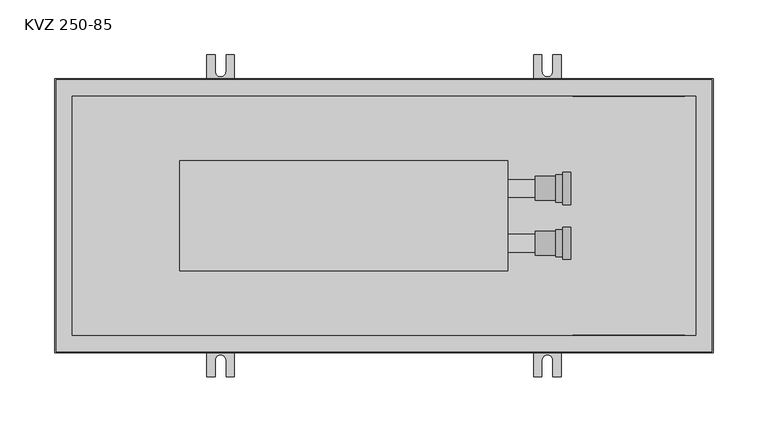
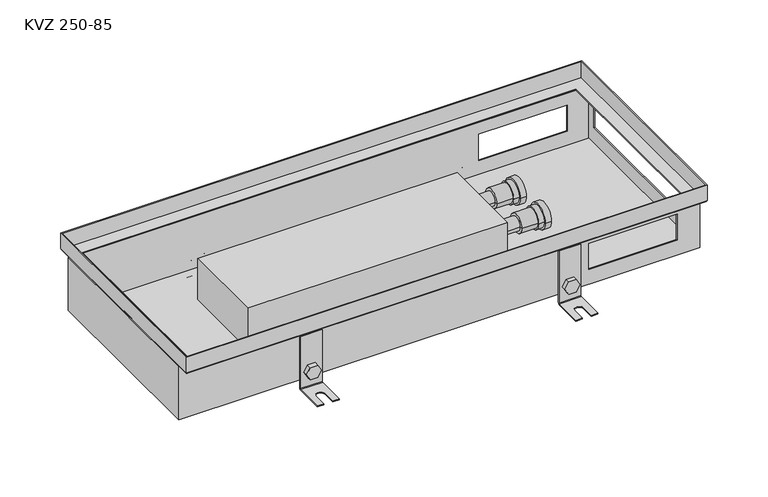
"""IFC4 building model written with IfcOpenShell, lengths in millimetres: proxy geometry, TECHNO_Конвектор встраиваемый_Usual_KVZ-250_85-105-120 : KVZ 250-85."""

from ifc_helpers import new_model, si_unit, point, frame, frame_2d, origin, place, context, project, spatial, polyline, circle_curve, ellipse_curve, trimmed, segment, composite_curve, outline, extrude, faceted_brep, source, transform, mapped, element, save
from ifc_brep_helpers import plane_surface, cylinder_surface, revolved_surface, advanced_brep


def kvz_250_85_78aa8f4b(model_context):
    return source(origin(), model_context, "Body", "SolidModel", [
        extrude(outline(composite_curve([segment(trimmed(circle_curve(frame_2d((-75.5, 449.0)), 7.5), [point((-75.5, 441.5))], [point((-75.5, 456.5))], False, "CARTESIAN"), True, "CONTINUOUS"), segment(trimmed(circle_curve(frame_2d((-75.5, 449.0)), 7.5), [point((-75.5, 456.5))], [point((-75.5, 441.5))], False, "CARTESIAN"), True, "CONTINUOUS")], self_intersect=False)), frame((0.0, 110.2, 0.0), z_axis=(0.0, 1.0, 0.0), x_axis=(0.0, 0.0, 1.0)), (0.0, 0.0, 1.0), 1.5),
        extrude(outline(polyline([(-75.5, 440.339746), (-83.0, 444.669873), (-83.0, 453.330127), (-75.5, 457.660254), (-68.0, 453.330127), (-68.0, 444.669873), (-75.5, 440.339746)])), frame((0.0, 112.9, 0.0), z_axis=(0.0, 1.0, 0.0), x_axis=(0.0, 0.0, 1.0)), (0.0, 0.0, 1.0), 5.1),
        advanced_brep(
        [(461.5, 112.9, -30.5), (461.5, 111.7, -30.5), (461.5, 111.7, -93.5), (461.5, 113.7, -95.5), (461.5, 146.7, -95.5), (461.5, 146.7, -94.3), (461.5, 113.7, -94.3), (461.5, 112.9, -93.5), (436.5, 112.9, -30.5), (436.5, 112.9, -93.5), (436.5, 113.7, -94.3), (436.5, 146.7, -94.3), (436.5, 146.7, -95.5), (436.5, 113.7, -95.5), (436.5, 111.7, -93.5), (436.5, 111.7, -30.5), (454.0, 146.7, -94.3), (454.0, 131.7, -94.3), (444.0, 131.7, -94.3), (444.0, 146.7, -94.3), (444.0, 146.7, -95.5), (454.0, 146.7, -95.5), (444.0, 131.7, -95.5), (454.0, 131.7, -95.5)],
        [
            (0, 1),
            (1, 2),
            (2, 3, circle_curve(frame((461.5, 113.7, -93.5), z_axis=(1.0, 0.0, 0.0), x_axis=(0.0, 1.0, 0.0)), 2.0)),
            (3, 4),
            (4, 5),
            (5, 6),
            (6, 7, circle_curve(frame((461.5, 113.7, -93.5), z_axis=(-1.0, 0.0, 0.0), x_axis=(0.0, 1.0, 0.0)), 0.8)),
            (7, 0),
            (8, 9),
            (9, 10, circle_curve(frame((436.5, 113.7, -93.5), z_axis=(1.0, 0.0, 0.0), x_axis=(0.0, 1.0, 0.0)), 0.8)),
            (10, 11),
            (11, 12),
            (12, 13),
            (13, 14, circle_curve(frame((436.5, 113.7, -93.5), z_axis=(-1.0, 0.0, 0.0), x_axis=(0.0, 1.0, 0.0)), 2.0)),
            (14, 15),
            (15, 8),
            (7, 9),
            (8, 0),
            (6, 10),
            (5, 16),
            (16, 17),
            (17, 18, circle_curve(frame((449.0, 131.7, -94.3), z_axis=(0.0, 0.0, -1.0), x_axis=(1.0, 0.0, 0.0)), 5.0)),
            (18, 19),
            (19, 11),
            (19, 20),
            (20, 12),
            (4, 21),
            (21, 16),
            (3, 13),
            (20, 22),
            (22, 23, circle_curve(frame((449.0, 131.7, -95.5), z_axis=(0.0, 0.0, 1.0), x_axis=(1.0, 0.0, 0.0)), 5.0)),
            (23, 21),
            (2, 14),
            (1, 15),
            (18, 22),
            (23, 17),
        ],
        [
            plane_surface(frame((461.5, 112.9, -30.5), z_axis=(1.0, 0.0, 0.0), x_axis=(0.0, 0.0, -1.0))),
            plane_surface(frame((436.5, 112.9, -30.5), z_axis=(-1.0, 0.0, 0.0), x_axis=(0.0, 0.0, 1.0))),
            plane_surface(frame((461.5, 112.9, -30.5), z_axis=(0.0, 1.0, 0.0), x_axis=(-1.0, 0.0, 0.0))),
            revolved_surface(polyline([(436.5, 114.5, -93.5), (461.5, 114.5, -93.5)]), (436.5, 113.7, -93.5), (-1.0, 0.0, 0.0)),
            plane_surface(frame((461.5, 113.7, -94.3), z_axis=(0.0, 0.0, 1.0), x_axis=(-1.0, 0.0, 0.0))),
            plane_surface(frame((461.5, 146.7, -94.3), z_axis=(0.0, 1.0, 0.0), x_axis=(-1.0, 0.0, 0.0))),
            plane_surface(frame((461.5, 146.7, -95.5), z_axis=(0.0, 0.0, -1.0), x_axis=(-1.0, 0.0, 0.0))),
            cylinder_surface(frame((436.5, 113.7, -93.5), z_axis=(1.0, 0.0, 0.0), x_axis=(0.0, 1.0, 0.0)), 2.0),
            plane_surface(frame((461.5, 111.7, -93.5), z_axis=(0.0, -1.0, 0.0), x_axis=(-1.0, 0.0, 0.0))),
            plane_surface(frame((461.5, 111.7, -30.5), z_axis=(0.0, 0.0, 1.0), x_axis=(-1.0, 0.0, 0.0))),
            plane_surface(frame((444.0, 131.7, -94.3), z_axis=(1.0, 0.0, 0.0), x_axis=(0.0, 0.0, -1.0))),
            plane_surface(frame((454.0, 146.7, -94.3), z_axis=(-1.0, 0.0, 0.0), x_axis=(0.0, 0.0, -1.0))),
            revolved_surface(polyline([(454.0, 131.7, -94.3), (454.0, 131.7, -95.5)]), (449.0, 131.7, -95.5), (0.0, 0.0, 1.0)),
        ],
        [
            (0, [[1, 2, 3, 4, 5, 6, 7, 8]]),
            (1, [[9, 10, 11, 12, 13, 14, 15, 16]]),
            (2, [[17, -9, 18, -8]]),
            (3, [[19, -10, -17, -7]]),
            (4, [[20, 21, 22, 23, 24, -11, -19, -6]]),
            (5, [[-24, 25, 26, -12]]),
            (5, [[27, 28, -20, -5]]),
            (6, [[29, -13, -26, 30, 31, 32, -27, -4]]),
            (7, [[33, -14, -29, -3]]),
            (8, [[34, -15, -33, -2]]),
            (9, [[-18, -16, -34, -1]]),
            (10, [[-30, -25, -23, 35]]),
            (11, [[-21, -28, -32, 36]]),
            (12, [[-22, -36, -31, -35]]),
        ],
    ),
        extrude(outline(composite_curve([segment(trimmed(circle_curve(frame_2d((-75.5, 449.0)), 7.5), [point((-75.5, 441.5))], [point((-75.5, 456.5))], False, "CARTESIAN"), True, "CONTINUOUS"), segment(trimmed(circle_curve(frame_2d((-75.5, 449.0)), 7.5), [point((-75.5, 456.5))], [point((-75.5, 441.5))], False, "CARTESIAN"), True, "CONTINUOUS")], self_intersect=False)), frame((0.0, -111.7, 0.0), z_axis=(0.0, 1.0, 0.0), x_axis=(0.0, 0.0, 1.0)), (0.0, 0.0, 1.0), 1.5),
        extrude(outline(polyline([(-75.5, 440.339746), (-83.0, 444.669873), (-83.0, 453.330127), (-75.5, 457.660254), (-68.0, 453.330127), (-68.0, 444.669873), (-75.5, 440.339746)])), frame((0.0, -118.0, 0.0), z_axis=(0.0, 1.0, 0.0), x_axis=(0.0, 0.0, 1.0)), (0.0, 0.0, 1.0), 5.1),
        advanced_brep(
        [(461.5, -112.9, -30.5), (461.5, -112.9, -93.5), (461.5, -113.7, -94.3), (461.5, -146.7, -94.3), (461.5, -146.7, -95.5), (461.5, -113.7, -95.5), (461.5, -111.7, -93.5), (461.5, -111.7, -30.5), (436.5, -112.9, -30.5), (436.5, -111.7, -30.5), (436.5, -111.7, -93.5), (436.5, -113.7, -95.5), (436.5, -146.7, -95.5), (436.5, -146.7, -94.3), (436.5, -113.7, -94.3), (436.5, -112.9, -93.5), (444.0, -146.7, -94.3), (444.0, -131.7, -94.3), (454.0, -131.7, -94.3), (454.0, -146.7, -94.3), (454.0, -146.7, -95.5), (444.0, -146.7, -95.5), (454.0, -131.7, -95.5), (444.0, -131.7, -95.5)],
        [
            (0, 1),
            (1, 2, circle_curve(frame((461.5, -113.7, -93.5), z_axis=(-1.0, 0.0, 0.0), x_axis=(0.0, -1.0, 0.0)), 0.8)),
            (2, 3),
            (3, 4),
            (4, 5),
            (5, 6, circle_curve(frame((461.5, -113.7, -93.5), z_axis=(1.0, 0.0, 0.0), x_axis=(0.0, -1.0, 0.0)), 2.0)),
            (6, 7),
            (7, 0),
            (8, 9),
            (9, 10),
            (10, 11, circle_curve(frame((436.5, -113.7, -93.5), z_axis=(-1.0, 0.0, 0.0), x_axis=(0.0, -1.0, 0.0)), 2.0)),
            (11, 12),
            (12, 13),
            (13, 14),
            (14, 15, circle_curve(frame((436.5, -113.7, -93.5), z_axis=(1.0, 0.0, 0.0), x_axis=(0.0, -1.0, 0.0)), 0.8)),
            (15, 8),
            (0, 8),
            (15, 1),
            (14, 2),
            (13, 16),
            (16, 17),
            (17, 18, circle_curve(frame((449.0, -131.7, -94.3), z_axis=(0.0, 0.0, -1.0), x_axis=(1.0, 0.0, 0.0)), 5.0)),
            (18, 19),
            (19, 3),
            (19, 20),
            (20, 4),
            (12, 21),
            (21, 16),
            (20, 22),
            (22, 23, circle_curve(frame((449.0, -131.7, -95.5), z_axis=(0.0, 0.0, 1.0), x_axis=(1.0, 0.0, 0.0)), 5.0)),
            (23, 21),
            (11, 5),
            (10, 6),
            (9, 7),
            (23, 17),
            (18, 22),
        ],
        [
            plane_surface(frame((461.5, -112.9, -30.5), z_axis=(1.0, 0.0, 0.0), x_axis=(0.0, 0.0, -1.0))),
            plane_surface(frame((436.5, -112.9, -30.5), z_axis=(-1.0, 0.0, 0.0), x_axis=(0.0, 0.0, 1.0))),
            plane_surface(frame((461.5, -112.9, -30.5), z_axis=(0.0, -1.0, 0.0), x_axis=(-1.0, 0.0, 0.0))),
            revolved_surface(polyline([(436.5, -114.5, -93.5), (461.5, -114.5, -93.5)]), (436.5, -113.7, -93.5), (-1.0, 0.0, 0.0)),
            plane_surface(frame((461.5, -113.7, -94.3), z_axis=(0.0, 0.0, 1.0), x_axis=(-1.0, 0.0, 0.0))),
            plane_surface(frame((461.5, -146.7, -94.3), z_axis=(0.0, -1.0, 0.0), x_axis=(-1.0, 0.0, 0.0))),
            plane_surface(frame((461.5, -146.7, -95.5), z_axis=(0.0, 0.0, -1.0), x_axis=(-1.0, 0.0, 0.0))),
            cylinder_surface(frame((436.5, -113.7, -93.5), z_axis=(1.0, 0.0, 0.0), x_axis=(0.0, -1.0, 0.0)), 2.0),
            plane_surface(frame((461.5, -111.7, -93.5), z_axis=(0.0, 1.0, 0.0), x_axis=(-1.0, 0.0, 0.0))),
            plane_surface(frame((461.5, -111.7, -30.5), z_axis=(0.0, 0.0, 1.0), x_axis=(-1.0, 0.0, 0.0))),
            plane_surface(frame((444.0, -131.7, -94.3), z_axis=(1.0, 0.0, 0.0), x_axis=(0.0, 0.0, -1.0))),
            plane_surface(frame((454.0, -146.7, -94.3), z_axis=(-1.0, 0.0, 0.0), x_axis=(0.0, 0.0, -1.0))),
            revolved_surface(polyline([(454.0, -131.7, -94.3), (454.0, -131.7, -95.5)]), (449.0, -131.7, -95.5), (0.0, 0.0, 1.0)),
        ],
        [
            (0, [[1, 2, 3, 4, 5, 6, 7, 8]]),
            (1, [[9, 10, 11, 12, 13, 14, 15, 16]]),
            (2, [[-1, 17, -16, 18]]),
            (3, [[-2, -18, -15, 19]]),
            (4, [[-3, -19, -14, 20, 21, 22, 23, 24]]),
            (5, [[-4, -24, 25, 26]]),
            (5, [[-13, 27, 28, -20]]),
            (6, [[-5, -26, 29, 30, 31, -27, -12, 32]]),
            (7, [[-6, -32, -11, 33]]),
            (8, [[-7, -33, -10, 34]]),
            (9, [[-8, -34, -9, -17]]),
            (10, [[35, -21, -28, -31]]),
            (11, [[36, -29, -25, -23]]),
            (12, [[-35, -30, -36, -22]]),
        ],
    ),
        extrude(outline(composite_curve([segment(trimmed(circle_curve(frame_2d((-75.5, 151.0)), 7.5), [point((-75.5, 143.5))], [point((-75.5, 158.5))], False, "CARTESIAN"), True, "CONTINUOUS"), segment(trimmed(circle_curve(frame_2d((-75.5, 151.0)), 7.5), [point((-75.5, 158.5))], [point((-75.5, 143.5))], False, "CARTESIAN"), True, "CONTINUOUS")], self_intersect=False)), frame((0.0, 110.2, 0.0), z_axis=(0.0, 1.0, 0.0), x_axis=(0.0, 0.0, 1.0)), (0.0, 0.0, 1.0), 1.5),
        extrude(outline(polyline([(-75.5, 142.339746), (-83.0, 146.669873), (-83.0, 155.330127), (-75.5, 159.660254), (-68.0, 155.330127), (-68.0, 146.669873), (-75.5, 142.339746)])), frame((0.0, 112.9, 0.0), z_axis=(0.0, 1.0, 0.0), x_axis=(0.0, 0.0, 1.0)), (0.0, 0.0, 1.0), 5.1),
        advanced_brep(
        [(163.5, 112.9, -30.5), (163.5, 111.7, -30.5), (163.5, 111.7, -93.5), (163.5, 113.7, -95.5), (163.5, 146.7, -95.5), (163.5, 146.7, -94.3), (163.5, 113.7, -94.3), (163.5, 112.9, -93.5), (138.5, 112.9, -30.5), (138.5, 112.9, -93.5), (138.5, 113.7, -94.3), (138.5, 146.7, -94.3), (138.5, 146.7, -95.5), (138.5, 113.7, -95.5), (138.5, 111.7, -93.5), (138.5, 111.7, -30.5), (156.0, 146.7, -94.3), (156.0, 131.7, -94.3), (146.0, 131.7, -94.3), (146.0, 146.7, -94.3), (146.0, 146.7, -95.5), (156.0, 146.7, -95.5), (146.0, 131.7, -95.5), (156.0, 131.7, -95.5)],
        [
            (0, 1),
            (1, 2),
            (2, 3, circle_curve(frame((163.5, 113.7, -93.5), z_axis=(1.0, 0.0, 0.0), x_axis=(0.0, 1.0, 0.0)), 2.0)),
            (3, 4),
            (4, 5),
            (5, 6),
            (6, 7, circle_curve(frame((163.5, 113.7, -93.5), z_axis=(-1.0, 0.0, 0.0), x_axis=(0.0, 1.0, 0.0)), 0.8)),
            (7, 0),
            (8, 9),
            (9, 10, circle_curve(frame((138.5, 113.7, -93.5), z_axis=(1.0, 0.0, 0.0), x_axis=(0.0, 1.0, 0.0)), 0.8)),
            (10, 11),
            (11, 12),
            (12, 13),
            (13, 14, circle_curve(frame((138.5, 113.7, -93.5), z_axis=(-1.0, 0.0, 0.0), x_axis=(0.0, 1.0, 0.0)), 2.0)),
            (14, 15),
            (15, 8),
            (7, 9),
            (8, 0),
            (6, 10),
            (5, 16),
            (16, 17),
            (17, 18, circle_curve(frame((151.0, 131.7, -94.3), z_axis=(0.0, 0.0, -1.0), x_axis=(1.0, 0.0, 0.0)), 5.0)),
            (18, 19),
            (19, 11),
            (19, 20),
            (20, 12),
            (4, 21),
            (21, 16),
            (3, 13),
            (20, 22),
            (22, 23, circle_curve(frame((151.0, 131.7, -95.5), z_axis=(0.0, 0.0, 1.0), x_axis=(1.0, 0.0, 0.0)), 5.0)),
            (23, 21),
            (2, 14),
            (1, 15),
            (18, 22),
            (23, 17),
        ],
        [
            plane_surface(frame((163.5, 112.9, -30.5), z_axis=(1.0, 0.0, 0.0), x_axis=(0.0, 0.0, -1.0))),
            plane_surface(frame((138.5, 112.9, -30.5), z_axis=(-1.0, 0.0, 0.0), x_axis=(0.0, 0.0, 1.0))),
            plane_surface(frame((163.5, 112.9, -30.5), z_axis=(0.0, 1.0, 0.0), x_axis=(-1.0, 0.0, 0.0))),
            revolved_surface(polyline([(138.5, 114.5, -93.5), (163.5, 114.5, -93.5)]), (138.5, 113.7, -93.5), (-1.0, 0.0, 0.0)),
            plane_surface(frame((163.5, 113.7, -94.3), z_axis=(0.0, 0.0, 1.0), x_axis=(-1.0, 0.0, 0.0))),
            plane_surface(frame((163.5, 146.7, -94.3), z_axis=(0.0, 1.0, 0.0), x_axis=(-1.0, 0.0, 0.0))),
            plane_surface(frame((163.5, 146.7, -95.5), z_axis=(0.0, 0.0, -1.0), x_axis=(-1.0, 0.0, 0.0))),
            cylinder_surface(frame((138.5, 113.7, -93.5), z_axis=(1.0, 0.0, 0.0), x_axis=(0.0, 1.0, 0.0)), 2.0),
            plane_surface(frame((163.5, 111.7, -93.5), z_axis=(0.0, -1.0, 0.0), x_axis=(-1.0, 0.0, 0.0))),
            plane_surface(frame((163.5, 111.7, -30.5), z_axis=(0.0, 0.0, 1.0), x_axis=(-1.0, 0.0, 0.0))),
            plane_surface(frame((146.0, 131.7, -94.3), z_axis=(1.0, 0.0, 0.0), x_axis=(0.0, 0.0, -1.0))),
            plane_surface(frame((156.0, 146.7, -94.3), z_axis=(-1.0, 0.0, 0.0), x_axis=(0.0, 0.0, -1.0))),
            revolved_surface(polyline([(156.0, 131.7, -94.3), (156.0, 131.7, -95.5)]), (151.0, 131.7, -95.5), (0.0, 0.0, 1.0)),
        ],
        [
            (0, [[1, 2, 3, 4, 5, 6, 7, 8]]),
            (1, [[9, 10, 11, 12, 13, 14, 15, 16]]),
            (2, [[17, -9, 18, -8]]),
            (3, [[19, -10, -17, -7]]),
            (4, [[20, 21, 22, 23, 24, -11, -19, -6]]),
            (5, [[-24, 25, 26, -12]]),
            (5, [[27, 28, -20, -5]]),
            (6, [[29, -13, -26, 30, 31, 32, -27, -4]]),
            (7, [[33, -14, -29, -3]]),
            (8, [[34, -15, -33, -2]]),
            (9, [[-18, -16, -34, -1]]),
            (10, [[-30, -25, -23, 35]]),
            (11, [[-21, -28, -32, 36]]),
            (12, [[-22, -36, -31, -35]]),
        ],
    ),
        extrude(outline(composite_curve([segment(trimmed(circle_curve(frame_2d((-75.5, 151.0)), 7.5), [point((-75.5, 143.5))], [point((-75.5, 158.5))], False, "CARTESIAN"), True, "CONTINUOUS"), segment(trimmed(circle_curve(frame_2d((-75.5, 151.0)), 7.5), [point((-75.5, 158.5))], [point((-75.5, 143.5))], False, "CARTESIAN"), True, "CONTINUOUS")], self_intersect=False)), frame((0.0, -111.7, 0.0), z_axis=(0.0, 1.0, 0.0), x_axis=(0.0, 0.0, 1.0)), (0.0, 0.0, 1.0), 1.5),
        extrude(outline(polyline([(-75.5, 142.339746), (-83.0, 146.669873), (-83.0, 155.330127), (-75.5, 159.660254), (-68.0, 155.330127), (-68.0, 146.669873), (-75.5, 142.339746)])), frame((0.0, -118.0, 0.0), z_axis=(0.0, 1.0, 0.0), x_axis=(0.0, 0.0, 1.0)), (0.0, 0.0, 1.0), 5.1),
        advanced_brep(
        [(163.5, -112.9, -30.5), (163.5, -112.9, -93.5), (163.5, -113.7, -94.3), (163.5, -146.7, -94.3), (163.5, -146.7, -95.5), (163.5, -113.7, -95.5), (163.5, -111.7, -93.5), (163.5, -111.7, -30.5), (138.5, -112.9, -30.5), (138.5, -111.7, -30.5), (138.5, -111.7, -93.5), (138.5, -113.7, -95.5), (138.5, -146.7, -95.5), (138.5, -146.7, -94.3), (138.5, -113.7, -94.3), (138.5, -112.9, -93.5), (146.0, -146.7, -94.3), (146.0, -131.7, -94.3), (156.0, -131.7, -94.3), (156.0, -146.7, -94.3), (156.0, -146.7, -95.5), (146.0, -146.7, -95.5), (156.0, -131.7, -95.5), (146.0, -131.7, -95.5)],
        [
            (0, 1),
            (1, 2, circle_curve(frame((163.5, -113.7, -93.5), z_axis=(-1.0, 0.0, 0.0), x_axis=(0.0, -1.0, 0.0)), 0.8)),
            (2, 3),
            (3, 4),
            (4, 5),
            (5, 6, circle_curve(frame((163.5, -113.7, -93.5), z_axis=(1.0, 0.0, 0.0), x_axis=(0.0, -1.0, 0.0)), 2.0)),
            (6, 7),
            (7, 0),
            (8, 9),
            (9, 10),
            (10, 11, circle_curve(frame((138.5, -113.7, -93.5), z_axis=(-1.0, 0.0, 0.0), x_axis=(0.0, -1.0, 0.0)), 2.0)),
            (11, 12),
            (12, 13),
            (13, 14),
            (14, 15, circle_curve(frame((138.5, -113.7, -93.5), z_axis=(1.0, 0.0, 0.0), x_axis=(0.0, -1.0, 0.0)), 0.8)),
            (15, 8),
            (0, 8),
            (15, 1),
            (14, 2),
            (13, 16),
            (16, 17),
            (17, 18, circle_curve(frame((151.0, -131.7, -94.3), z_axis=(0.0, 0.0, -1.0), x_axis=(1.0, 0.0, 0.0)), 5.0)),
            (18, 19),
            (19, 3),
            (19, 20),
            (20, 4),
            (12, 21),
            (21, 16),
            (20, 22),
            (22, 23, circle_curve(frame((151.0, -131.7, -95.5), z_axis=(0.0, 0.0, 1.0), x_axis=(1.0, 0.0, 0.0)), 5.0)),
            (23, 21),
            (11, 5),
            (10, 6),
            (9, 7),
            (23, 17),
            (18, 22),
        ],
        [
            plane_surface(frame((163.5, -112.9, -30.5), z_axis=(1.0, 0.0, 0.0), x_axis=(0.0, 0.0, -1.0))),
            plane_surface(frame((138.5, -112.9, -30.5), z_axis=(-1.0, 0.0, 0.0), x_axis=(0.0, 0.0, 1.0))),
            plane_surface(frame((163.5, -112.9, -30.5), z_axis=(0.0, -1.0, 0.0), x_axis=(-1.0, 0.0, 0.0))),
            revolved_surface(polyline([(138.5, -114.5, -93.5), (163.5, -114.5, -93.5)]), (138.5, -113.7, -93.5), (-1.0, 0.0, 0.0)),
            plane_surface(frame((163.5, -113.7, -94.3), z_axis=(0.0, 0.0, 1.0), x_axis=(-1.0, 0.0, 0.0))),
            plane_surface(frame((163.5, -146.7, -94.3), z_axis=(0.0, -1.0, 0.0), x_axis=(-1.0, 0.0, 0.0))),
            plane_surface(frame((163.5, -146.7, -95.5), z_axis=(0.0, 0.0, -1.0), x_axis=(-1.0, 0.0, 0.0))),
            cylinder_surface(frame((138.5, -113.7, -93.5), z_axis=(1.0, 0.0, 0.0), x_axis=(0.0, -1.0, 0.0)), 2.0),
            plane_surface(frame((163.5, -111.7, -93.5), z_axis=(0.0, 1.0, 0.0), x_axis=(-1.0, 0.0, 0.0))),
            plane_surface(frame((163.5, -111.7, -30.5), z_axis=(0.0, 0.0, 1.0), x_axis=(-1.0, 0.0, 0.0))),
            plane_surface(frame((146.0, -131.7, -94.3), z_axis=(1.0, 0.0, 0.0), x_axis=(0.0, 0.0, -1.0))),
            plane_surface(frame((156.0, -146.7, -94.3), z_axis=(-1.0, 0.0, 0.0), x_axis=(0.0, 0.0, -1.0))),
            revolved_surface(polyline([(156.0, -131.7, -94.3), (156.0, -131.7, -95.5)]), (151.0, -131.7, -95.5), (0.0, 0.0, 1.0)),
        ],
        [
            (0, [[1, 2, 3, 4, 5, 6, 7, 8]]),
            (1, [[9, 10, 11, 12, 13, 14, 15, 16]]),
            (2, [[-1, 17, -16, 18]]),
            (3, [[-2, -18, -15, 19]]),
            (4, [[-3, -19, -14, 20, 21, 22, 23, 24]]),
            (5, [[-4, -24, 25, 26]]),
            (5, [[-13, 27, 28, -20]]),
            (6, [[-5, -26, 29, 30, 31, -27, -12, 32]]),
            (7, [[-6, -32, -11, 33]]),
            (8, [[-7, -33, -10, 34]]),
            (9, [[-8, -34, -9, -17]]),
            (10, [[35, -21, -28, -31]]),
            (11, [[36, -29, -25, -23]]),
            (12, [[-35, -30, -36, -22]]),
        ],
    ),
        extrude(outline(polyline([(413.0, 50.0), (413.0, -50.0), (114.0, -50.0), (114.0, 50.0), (413.0, 50.0)])), frame((0.0, 0.0, -75.3), z_axis=(0.0, 0.0, 1.0), x_axis=(1.0, 0.0, 0.0)), (0.0, 0.0, 1.0), 50.0),
        advanced_brep(
        [(438.0, 25.0, -50.3), (438.0, 36.0, -50.3), (438.0, 14.0, -50.3), (456.5, 36.0, -50.3), (456.5, 14.0, -50.3), (456.5, 37.5, -50.3), (456.5, 12.5, -50.3), (463.0, 37.5, -50.3), (463.0, 12.5, -50.3), (463.0, 39.7, -50.3), (463.0, 10.3, -50.3), (470.0, 39.7, -50.3), (470.0, 10.3, -50.3), (470.0, 25.0, -50.3)],
        [
            (0, 1),
            (1, 2, circle_curve(frame((438.0, 25.0, -50.3), z_axis=(-1.0, 0.0, 0.0), x_axis=(0.0, 1.0, 0.0)), 11.0)),
            (2, 0),
            (2, 1, circle_curve(frame((438.0, 25.0, -50.3), z_axis=(-1.0, 0.0, 0.0), x_axis=(0.0, 1.0, 0.0)), 11.0)),
            (1, 3),
            (3, 4, circle_curve(frame((456.5, 25.0, -50.3), z_axis=(-1.0, 0.0, 0.0), x_axis=(0.0, 1.0, 0.0)), 11.0)),
            (4, 2),
            (4, 3, circle_curve(frame((456.5, 25.0, -50.3), z_axis=(-1.0, 0.0, 0.0), x_axis=(0.0, 1.0, 0.0)), 11.0)),
            (3, 5),
            (5, 6, circle_curve(frame((456.5, 25.0, -50.3), z_axis=(-1.0, 0.0, 0.0), x_axis=(0.0, 1.0, 0.0)), 12.5)),
            (6, 4),
            (6, 5, circle_curve(frame((456.5, 25.0, -50.3), z_axis=(-1.0, 0.0, 0.0), x_axis=(0.0, 1.0, 0.0)), 12.5)),
            (5, 7),
            (7, 8, circle_curve(frame((463.0, 25.0, -50.3), z_axis=(-1.0, 0.0, 0.0), x_axis=(0.0, 1.0, 0.0)), 12.5)),
            (8, 6),
            (8, 7, circle_curve(frame((463.0, 25.0, -50.3), z_axis=(-1.0, 0.0, 0.0), x_axis=(0.0, 1.0, 0.0)), 12.5)),
            (7, 9),
            (9, 10, circle_curve(frame((463.0, 25.0, -50.3), z_axis=(-1.0, 0.0, 0.0), x_axis=(0.0, 1.0, 0.0)), 14.7)),
            (10, 8),
            (10, 9, circle_curve(frame((463.0, 25.0, -50.3), z_axis=(-1.0, 0.0, 0.0), x_axis=(0.0, 1.0, 0.0)), 14.7)),
            (9, 11),
            (11, 12, circle_curve(frame((470.0, 25.0, -50.3), z_axis=(-1.0, 0.0, 0.0), x_axis=(0.0, 1.0, 0.0)), 14.7)),
            (12, 10),
            (12, 11, circle_curve(frame((470.0, 25.0, -50.3), z_axis=(-1.0, 0.0, 0.0), x_axis=(0.0, 1.0, 0.0)), 14.7)),
            (11, 13),
            (13, 12),
        ],
        [
            plane_surface(frame((438.0, 25.0, -50.3), z_axis=(-1.0, 0.0, 0.0), x_axis=(0.0, 1.0, 0.0))),
            cylinder_surface(frame((470.0, 25.0, -50.3), z_axis=(-1.0, 0.0, 0.0), x_axis=(0.0, 1.0, 0.0)), 11.0),
            plane_surface(frame((456.5, 25.0, -50.3), z_axis=(-1.0, 0.0, 0.0), x_axis=(0.0, 1.0, 0.0))),
            cylinder_surface(frame((470.0, 25.0, -50.3), z_axis=(-1.0, 0.0, 0.0), x_axis=(0.0, 1.0, 0.0)), 12.5),
            plane_surface(frame((463.0, 25.0, -50.3), z_axis=(-1.0, 0.0, 0.0), x_axis=(0.0, 1.0, 0.0))),
            cylinder_surface(frame((470.0, 25.0, -50.3), z_axis=(-1.0, 0.0, 0.0), x_axis=(0.0, 1.0, 0.0)), 14.7),
            plane_surface(frame((470.0, 25.0, -50.3), z_axis=(1.0, 0.0, 0.0), x_axis=(0.0, 1.0, 0.0))),
        ],
        [
            (0, [[1, 2, 3]]),
            (0, [[-3, 4, -1]]),
            (1, [[-2, 5, 6, 7]]),
            (1, [[-4, -7, 8, -5]]),
            (2, [[-6, 9, 10, 11]]),
            (2, [[-8, -11, 12, -9]]),
            (3, [[-10, 13, 14, 15]]),
            (3, [[-12, -15, 16, -13]]),
            (4, [[-14, 17, 18, 19]]),
            (4, [[-16, -19, 20, -17]]),
            (5, [[-18, 21, 22, 23]]),
            (5, [[-20, -23, 24, -21]]),
            (6, [[-22, 25, 26]]),
            (6, [[-24, -26, -25]]),
        ],
    ),
        advanced_brep(
        [(438.0, -25.0, -50.3), (438.0, -14.0, -50.3), (438.0, -36.0, -50.3), (456.5, -14.0, -50.3), (456.5, -36.0, -50.3), (456.5, -12.5, -50.3), (456.5, -37.5, -50.3), (463.0, -12.5, -50.3), (463.0, -37.5, -50.3), (463.0, -10.3, -50.3), (463.0, -39.7, -50.3), (470.0, -10.3, -50.3), (470.0, -39.7, -50.3), (470.0, -25.0, -50.3)],
        [
            (0, 1),
            (1, 2, circle_curve(frame((438.0, -25.0, -50.3), z_axis=(-1.0, 0.0, 0.0), x_axis=(0.0, 1.0, 0.0)), 11.0)),
            (2, 0),
            (2, 1, circle_curve(frame((438.0, -25.0, -50.3), z_axis=(-1.0, 0.0, 0.0), x_axis=(0.0, 1.0, 0.0)), 11.0)),
            (1, 3),
            (3, 4, circle_curve(frame((456.5, -25.0, -50.3), z_axis=(-1.0, 0.0, 0.0), x_axis=(0.0, 1.0, 0.0)), 11.0)),
            (4, 2),
            (4, 3, circle_curve(frame((456.5, -25.0, -50.3), z_axis=(-1.0, 0.0, 0.0), x_axis=(0.0, 1.0, 0.0)), 11.0)),
            (3, 5),
            (5, 6, circle_curve(frame((456.5, -25.0, -50.3), z_axis=(-1.0, 0.0, 0.0), x_axis=(0.0, 1.0, 0.0)), 12.5)),
            (6, 4),
            (6, 5, circle_curve(frame((456.5, -25.0, -50.3), z_axis=(-1.0, 0.0, 0.0), x_axis=(0.0, 1.0, 0.0)), 12.5)),
            (5, 7),
            (7, 8, circle_curve(frame((463.0, -25.0, -50.3), z_axis=(-1.0, 0.0, 0.0), x_axis=(0.0, 1.0, 0.0)), 12.5)),
            (8, 6),
            (8, 7, circle_curve(frame((463.0, -25.0, -50.3), z_axis=(-1.0, 0.0, 0.0), x_axis=(0.0, 1.0, 0.0)), 12.5)),
            (7, 9),
            (9, 10, circle_curve(frame((463.0, -25.0, -50.3), z_axis=(-1.0, 0.0, 0.0), x_axis=(0.0, 1.0, 0.0)), 14.7)),
            (10, 8),
            (10, 9, circle_curve(frame((463.0, -25.0, -50.3), z_axis=(-1.0, 0.0, 0.0), x_axis=(0.0, 1.0, 0.0)), 14.7)),
            (9, 11),
            (11, 12, circle_curve(frame((470.0, -25.0, -50.3), z_axis=(-1.0, 0.0, 0.0), x_axis=(0.0, 1.0, 0.0)), 14.7)),
            (12, 10),
            (12, 11, circle_curve(frame((470.0, -25.0, -50.3), z_axis=(-1.0, 0.0, 0.0), x_axis=(0.0, 1.0, 0.0)), 14.7)),
            (11, 13),
            (13, 12),
        ],
        [
            plane_surface(frame((438.0, -25.0, -50.3), z_axis=(-1.0, 0.0, 0.0), x_axis=(0.0, 1.0, 0.0))),
            cylinder_surface(frame((470.0, -25.0, -50.3), z_axis=(-1.0, 0.0, 0.0), x_axis=(0.0, 1.0, 0.0)), 11.0),
            plane_surface(frame((456.5, -25.0, -50.3), z_axis=(-1.0, 0.0, 0.0), x_axis=(0.0, 1.0, 0.0))),
            cylinder_surface(frame((470.0, -25.0, -50.3), z_axis=(-1.0, 0.0, 0.0), x_axis=(0.0, 1.0, 0.0)), 12.5),
            plane_surface(frame((463.0, -25.0, -50.3), z_axis=(-1.0, 0.0, 0.0), x_axis=(0.0, 1.0, 0.0))),
            cylinder_surface(frame((470.0, -25.0, -50.3), z_axis=(-1.0, 0.0, 0.0), x_axis=(0.0, 1.0, 0.0)), 14.7),
            plane_surface(frame((470.0, -25.0, -50.3), z_axis=(1.0, 0.0, 0.0), x_axis=(0.0, 1.0, 0.0))),
        ],
        [
            (0, [[1, 2, 3]]),
            (0, [[-3, 4, -1]]),
            (1, [[-2, 5, 6, 7]]),
            (1, [[-4, -7, 8, -5]]),
            (2, [[-6, 9, 10, 11]]),
            (2, [[-8, -11, 12, -9]]),
            (3, [[-10, 13, 14, 15]]),
            (3, [[-12, -15, 16, -13]]),
            (4, [[-14, 17, 18, 19]]),
            (4, [[-16, -19, 20, -17]]),
            (5, [[-18, 21, 22, 23]]),
            (5, [[-20, -23, 24, -21]]),
            (6, [[-22, 25, 26]]),
            (6, [[-24, -26, -25]]),
        ],
    ),
        extrude(outline(composite_curve([segment(trimmed(circle_curve(frame_2d((25.0, -50.3)), 8.0), [point((17.0, -50.3))], [point((33.0, -50.3))], False, "CARTESIAN"), True, "CONTINUOUS"), segment(trimmed(circle_curve(frame_2d((25.0, -50.3)), 8.0), [point((33.0, -50.3))], [point((17.0, -50.3))], False, "CARTESIAN"), True, "CONTINUOUS")], self_intersect=False)), frame((413.0, 0.0, 0.0), z_axis=(1.0, 0.0, 0.0), x_axis=(0.0, 1.0, 0.0)), (0.0, 0.0, 1.0), 25.0),
        extrude(outline(composite_curve([segment(trimmed(circle_curve(frame_2d((-25.0, -50.3)), 8.0), [point((-33.0, -50.3))], [point((-17.0, -50.3))], False, "CARTESIAN"), True, "CONTINUOUS"), segment(trimmed(circle_curve(frame_2d((-25.0, -50.3)), 8.0), [point((-17.0, -50.3))], [point((-33.0, -50.3))], False, "CARTESIAN"), True, "CONTINUOUS")], self_intersect=False)), frame((413.0, 0.0, 0.0), z_axis=(1.0, 0.0, 0.0), x_axis=(0.0, 1.0, 0.0)), (0.0, 0.0, 1.0), 25.0),
        faceted_brep([(598.8, -109.0, -83.8), (598.8, 109.0, -83.8), (1.2, 109.0, -83.8), (1.2, -109.0, -83.8), (0.0, -110.2, -85.0), (0.0, 110.2, -85.0), (600.0, 110.2, -85.0), (600.0, -110.2, -85.0), (600.0, -110.2, -20.5), (0.0, -110.2, -20.5), (472.0, -110.2, -35.0), (574.0, -110.2, -35.0), (574.0, -110.2, -67.0), (472.0, -110.2, -67.0), (600.0, 110.2, -20.5), (600.0, 98.8, -33.0), (600.0, 98.8, -65.0), (600.0, -98.8, -65.0), (600.0, -98.8, -33.0), (0.0, 110.2, -20.5), (574.0, 110.2, -35.0), (472.0, 110.2, -35.0), (472.0, 110.2, -67.0), (574.0, 110.2, -67.0), (598.8, -109.0, -20.5), (598.8, 109.0, -20.5), (598.8, 98.8, -65.0), (598.8, 98.8, -33.0), (598.8, -98.8, -33.0), (598.8, -98.8, -65.0), (1.2, -109.0, -20.5), (574.0, -109.0, -35.0), (472.0, -109.0, -35.0), (472.0, -109.0, -67.0), (574.0, -109.0, -67.0), (1.2, 109.0, -20.5), (472.0, 109.0, -35.0), (574.0, 109.0, -35.0), (574.0, 109.0, -67.0), (472.0, 109.0, -67.0)], [[[0, 1, 2, 3]], [[4, 5, 6, 7]], [[4, 7, 8, 9], [10, 11, 12, 13]], [[7, 6, 14, 8], [15, 16, 17, 18]], [[6, 5, 19, 14], [20, 21, 22, 23]], [[5, 4, 9, 19]], [[24, 25, 1, 0], [26, 27, 28, 29]], [[30, 24, 0, 3], [31, 32, 33, 34]], [[35, 30, 3, 2]], [[25, 35, 2, 1], [36, 37, 38, 39]], [[8, 14, 19, 9], [25, 24, 30, 35]], [[31, 11, 10, 32]], [[20, 37, 36, 21]], [[32, 10, 13, 33]], [[21, 36, 39, 22]], [[33, 13, 12, 34]], [[22, 39, 38, 23]], [[11, 31, 34, 12]], [[37, 20, 23, 38]], [[15, 27, 26, 16]], [[27, 15, 18, 28]], [[28, 18, 17, 29]], [[16, 26, 29, 17]]]),
        advanced_brep(
        [(584.0, 109.0, -19.3), (584.0, 109.0, -20.5), (584.0, -109.0, -20.5), (584.0, -109.0, -19.3), (598.8, 123.8, 0.0), (598.8, 123.8, -19.3), (598.8, -123.8, -19.3), (598.8, -123.8, 0.0), (600.0, 125.0, -18.5), (600.0, 125.0, 0.0), (600.0, -125.0, 0.0), (600.0, -125.0, -18.5), (16.0, -109.0, -20.5), (16.0, -109.0, -19.3), (1.2, -123.8, -19.3), (1.2, -123.8, 0.0), (0.0, -125.0, 0.0), (0.0, -125.0, -18.5), (16.0, 109.0, -20.5), (16.0, 109.0, -19.3), (1.2, 123.8, -19.3), (1.2, 123.8, 0.0), (0.0, 125.0, 0.0), (0.0, 125.0, -18.5), (598.0, -123.0, -20.5), (2.0, -123.0, -20.5), (2.0, 123.0, -20.5), (598.0, 123.0, -20.5)],
        [
            (0, 1),
            (1, 2),
            (2, 3),
            (3, 0),
            (4, 5),
            (5, 6),
            (6, 7),
            (7, 4),
            (8, 9),
            (9, 10),
            (10, 11),
            (11, 8),
            (2, 12),
            (12, 13),
            (13, 3),
            (6, 14),
            (14, 15),
            (15, 7),
            (10, 16),
            (16, 17),
            (17, 11),
            (12, 18),
            (18, 19),
            (19, 13),
            (14, 20),
            (20, 21),
            (21, 15),
            (16, 22),
            (22, 23),
            (23, 17),
            (24, 25),
            (25, 26),
            (26, 27),
            (27, 24),
            (1, 18),
            (0, 19),
            (5, 20),
            (4, 21),
            (9, 22),
            (8, 23),
            (27, 8, ellipse_curve(frame((598.0, 123.0, -18.5), z_axis=(0.7071067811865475, -0.7071067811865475, 0.0), x_axis=(0.7071067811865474, 0.7071067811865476, 0.0)), 2.8284271, 2.0)),
            (11, 24, ellipse_curve(frame((598.0, -123.0, -18.5), z_axis=(0.7071067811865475, 0.7071067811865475, 0.0), x_axis=(-0.7071067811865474, 0.7071067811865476, 0.0)), 2.8284271, 2.0)),
            (17, 25, ellipse_curve(frame((2.0, -123.0, -18.5), z_axis=(0.7071067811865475, -0.7071067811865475, 0.0), x_axis=(0.7071067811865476, 0.7071067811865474, 0.0)), 2.8284271, 2.0)),
            (23, 26, ellipse_curve(frame((2.0, 123.0, -18.5), z_axis=(-0.7071067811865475, -0.7071067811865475, 0.0), x_axis=(0.7071067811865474, -0.7071067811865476, 0.0)), 2.8284271, 2.0)),
        ],
        [
            plane_surface(frame((584.0, 109.0, -20.5), z_axis=(-1.0, 0.0, 0.0), x_axis=(0.0, -1.0, 0.0))),
            plane_surface(frame((598.8, 123.8, -19.3), z_axis=(-1.0, 0.0, 0.0), x_axis=(0.0, -1.0, 0.0))),
            plane_surface(frame((600.0, 125.0, 0.0), z_axis=(1.0, 0.0, 0.0), x_axis=(0.0, -1.0, 0.0))),
            plane_surface(frame((584.0, -109.0, -20.5), z_axis=(0.0, 1.0, 0.0), x_axis=(-1.0, 0.0, 0.0))),
            plane_surface(frame((598.8, -123.8, -19.3), z_axis=(0.0, 1.0, 0.0), x_axis=(-1.0, 0.0, 0.0))),
            plane_surface(frame((600.0, -125.0, 0.0), z_axis=(0.0, -1.0, 0.0), x_axis=(-1.0, 0.0, 0.0))),
            plane_surface(frame((16.0, -109.0, -20.5), z_axis=(1.0, 0.0, 0.0), x_axis=(0.0, 1.0, 0.0))),
            plane_surface(frame((1.2, -123.8, -19.3), z_axis=(1.0, 0.0, 0.0), x_axis=(0.0, 1.0, 0.0))),
            plane_surface(frame((0.0, -125.0, 0.0), z_axis=(-1.0, 0.0, 0.0), x_axis=(0.0, 1.0, 0.0))),
            plane_surface(frame((2.0, 123.0, -20.5), z_axis=(0.0, 0.0, -1.0), x_axis=(1.0, 0.0, 0.0))),
            plane_surface(frame((16.0, 109.0, -20.5), z_axis=(0.0, -1.0, 0.0), x_axis=(1.0, 0.0, 0.0))),
            plane_surface(frame((16.0, 109.0, -19.3), z_axis=(0.0, 0.0, 1.0), x_axis=(1.0, 0.0, 0.0))),
            plane_surface(frame((1.2, 123.8, -19.3), z_axis=(0.0, -1.0, 0.0), x_axis=(1.0, 0.0, 0.0))),
            plane_surface(frame((1.2, 123.8, 0.0), z_axis=(0.0, 0.0, 1.0), x_axis=(1.0, 0.0, 0.0))),
            plane_surface(frame((0.0, 125.0, 0.0), z_axis=(0.0, 1.0, 0.0), x_axis=(1.0, 0.0, 0.0))),
            cylinder_surface(frame((598.0, 125.0, -18.5), z_axis=(0.0, 1.0, 0.0), x_axis=(1.0, 0.0, 0.0)), 2.0),
            cylinder_surface(frame((600.0, -123.0, -18.5), z_axis=(1.0, 0.0, 0.0), x_axis=(0.0, -1.0, 0.0)), 2.0),
            cylinder_surface(frame((2.0, -125.0, -18.5), z_axis=(0.0, -1.0, 0.0), x_axis=(-1.0, 0.0, 0.0)), 2.0),
            cylinder_surface(frame((0.0, 123.0, -18.5), z_axis=(-1.0, 0.0, 0.0), x_axis=(0.0, 1.0, 0.0)), 2.0),
        ],
        [
            (0, [[1, 2, 3, 4]]),
            (1, [[5, 6, 7, 8]]),
            (2, [[9, 10, 11, 12]]),
            (3, [[-3, 13, 14, 15]]),
            (4, [[-7, 16, 17, 18]]),
            (5, [[-11, 19, 20, 21]]),
            (6, [[-14, 22, 23, 24]]),
            (7, [[-17, 25, 26, 27]]),
            (8, [[-20, 28, 29, 30]]),
            (9, [[31, 32, 33, 34], [35, -22, -13, -2]]),
            (10, [[-23, -35, -1, 36]]),
            (11, [[37, -25, -16, -6], [-15, -24, -36, -4]]),
            (12, [[-26, -37, -5, 38]]),
            (13, [[39, -28, -19, -10], [-18, -27, -38, -8]]),
            (14, [[-29, -39, -9, 40]]),
            (15, [[41, -12, 42, -34]]),
            (16, [[-42, -21, 43, -31]]),
            (17, [[-43, -30, 44, -32]]),
            (18, [[-44, -40, -41, -33]]),
        ],
    ),
    ])


if __name__ == "__main__":
    model = new_model("IFC4")
    model_context = context("Model", 3, world=origin())
    ifc_project = project(units=[si_unit("LENGTHUNIT", "METRE", prefix="MILLI")], contexts=[model_context])
    site = spatial("IfcSite", under=ifc_project)
    building = spatial("IfcBuilding", under=site)
    placement = place(None, origin())
    kvz_250_85_shape = kvz_250_85_78aa8f4b(model_context)
    element("IfcBuildingElementProxy", 1, Name="TECHNO_Конвектор встраиваемый_Usual_KVZ-250_85-105-120 : KVZ 250-85", ObjectType="TECHNO_Конвектор встраиваемый_Usual_KVZ-250_85-105-120 : KVZ 250-85", at=placement, inside=building, context=model_context, shape_type="MappedRepresentation", body=[
        mapped(kvz_250_85_shape, transform((0.0, 0.0, 0.0), x_axis=(1.0, 0.0, 0.0), y_axis=(0.0, 1.0, 0.0), z_axis=(0.0, 0.0, 1.0))),
    ])
    save(model, "model.ifc")
